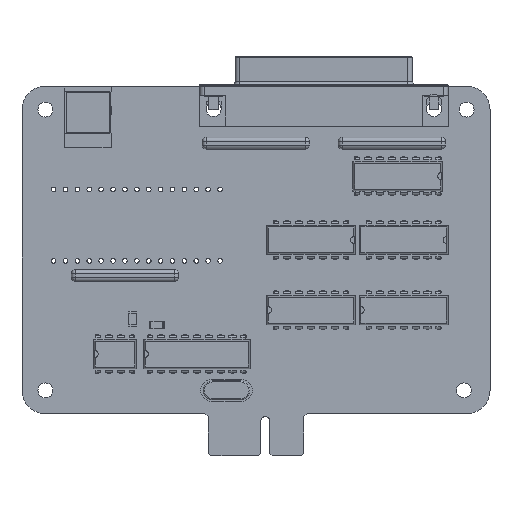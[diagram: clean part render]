
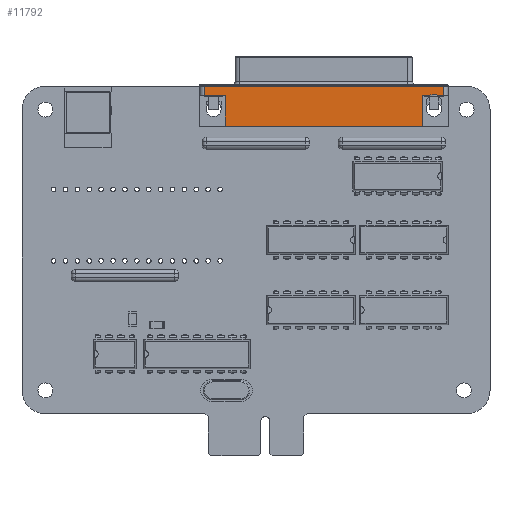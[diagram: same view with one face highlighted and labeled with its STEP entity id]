
A CAD part, top view. The second image highlights one B-rep face of the part: STEP entity #11792.
In plain terms, the highlighted planar face has unit normal (0, 0, 1).
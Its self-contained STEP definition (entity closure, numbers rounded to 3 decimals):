
#11551 = VERTEX_POINT('',#11552);
#11552 = CARTESIAN_POINT('',(-42.17,-7.78,12.5));
#11558 = EDGE_CURVE('',#11559,#11551,#11561,.T.);
#11559 = VERTEX_POINT('',#11560);
#11560 = CARTESIAN_POINT('',(8.93,-7.78,12.5));
#11561 = LINE('',#11562,#11563);
#11562 = CARTESIAN_POINT('',(8.93,-7.78,12.5));
#11563 = VECTOR('',#11564,1.);
#11564 = DIRECTION('',(-1.,0.,0.));
#11792 = ADVANCED_FACE('',(#11793),#11867,.T.);
#11793 = FACE_BOUND('',#11794,.T.);
#11794 = EDGE_LOOP('',(#11795,#11796,#11804,#11812,#11820,#11828,#11836,
    #11844,#11853,#11861));
#11795 = ORIENTED_EDGE('',*,*,#11558,.F.);
#11796 = ORIENTED_EDGE('',*,*,#11797,.T.);
#11797 = EDGE_CURVE('',#11559,#11798,#11800,.T.);
#11798 = VERTEX_POINT('',#11799);
#11799 = CARTESIAN_POINT('',(8.93,-5.78,12.5));
#11800 = LINE('',#11801,#11802);
#11801 = CARTESIAN_POINT('',(8.93,-7.78,12.5));
#11802 = VECTOR('',#11803,1.);
#11803 = DIRECTION('',(0.,1.,0.));
#11804 = ORIENTED_EDGE('',*,*,#11805,.F.);
#11805 = EDGE_CURVE('',#11806,#11798,#11808,.T.);
#11806 = VERTEX_POINT('',#11807);
#11807 = CARTESIAN_POINT('',(4.43,-5.78,12.5));
#11808 = LINE('',#11809,#11810);
#11809 = CARTESIAN_POINT('',(8.93,-5.78,12.5));
#11810 = VECTOR('',#11811,1.);
#11811 = DIRECTION('',(1.,0.,0.));
#11812 = ORIENTED_EDGE('',*,*,#11813,.F.);
#11813 = EDGE_CURVE('',#11814,#11806,#11816,.T.);
#11814 = VERTEX_POINT('',#11815);
#11815 = CARTESIAN_POINT('',(4.43,0.82,12.5));
#11816 = LINE('',#11817,#11818);
#11817 = CARTESIAN_POINT('',(4.43,-6.78,12.5));
#11818 = VECTOR('',#11819,1.);
#11819 = DIRECTION('',(0.,-1.,0.));
#11820 = ORIENTED_EDGE('',*,*,#11821,.T.);
#11821 = EDGE_CURVE('',#11814,#11822,#11824,.T.);
#11822 = VERTEX_POINT('',#11823);
#11823 = CARTESIAN_POINT('',(-37.67,0.82,12.5));
#11824 = LINE('',#11825,#11826);
#11825 = CARTESIAN_POINT('',(9.93,0.82,12.5));
#11826 = VECTOR('',#11827,1.);
#11827 = DIRECTION('',(-1.,0.,0.));
#11828 = ORIENTED_EDGE('',*,*,#11829,.F.);
#11829 = EDGE_CURVE('',#11830,#11822,#11832,.T.);
#11830 = VERTEX_POINT('',#11831);
#11831 = CARTESIAN_POINT('',(-37.67,-5.78,12.5));
#11832 = LINE('',#11833,#11834);
#11833 = CARTESIAN_POINT('',(-37.67,-6.78,12.5));
#11834 = VECTOR('',#11835,1.);
#11835 = DIRECTION('',(0.,1.,0.));
#11836 = ORIENTED_EDGE('',*,*,#11837,.F.);
#11837 = EDGE_CURVE('',#11838,#11830,#11840,.T.);
#11838 = VERTEX_POINT('',#11839);
#11839 = CARTESIAN_POINT('',(-39.296,-5.78,12.5));
#11840 = LINE('',#11841,#11842);
#11841 = CARTESIAN_POINT('',(-15.62,-5.78,12.5));
#11842 = VECTOR('',#11843,1.);
#11843 = DIRECTION('',(1.,0.,0.));
#11844 = ORIENTED_EDGE('',*,*,#11845,.T.);
#11845 = EDGE_CURVE('',#11838,#11846,#11848,.T.);
#11846 = VERTEX_POINT('',#11847);
#11847 = CARTESIAN_POINT('',(-41.044,-5.78,12.5));
#11848 = CIRCLE('',#11849,1.6);
#11849 = AXIS2_PLACEMENT_3D('',#11850,#11851,#11852);
#11850 = CARTESIAN_POINT('',(-40.17,-4.44,12.5));
#11851 = DIRECTION('',(0.,0.,-1.));
#11852 = DIRECTION('',(1.,0.,0.));
#11853 = ORIENTED_EDGE('',*,*,#11854,.F.);
#11854 = EDGE_CURVE('',#11855,#11846,#11857,.T.);
#11855 = VERTEX_POINT('',#11856);
#11856 = CARTESIAN_POINT('',(-42.17,-5.78,12.5));
#11857 = LINE('',#11858,#11859);
#11858 = CARTESIAN_POINT('',(-15.62,-5.78,12.5));
#11859 = VECTOR('',#11860,1.);
#11860 = DIRECTION('',(1.,0.,0.));
#11861 = ORIENTED_EDGE('',*,*,#11862,.F.);
#11862 = EDGE_CURVE('',#11551,#11855,#11863,.T.);
#11863 = LINE('',#11864,#11865);
#11864 = CARTESIAN_POINT('',(-42.17,-7.78,12.5));
#11865 = VECTOR('',#11866,1.);
#11866 = DIRECTION('',(0.,1.,0.));
#11867 = PLANE('',#11868);
#11868 = AXIS2_PLACEMENT_3D('',#11869,#11870,#11871);
#11869 = CARTESIAN_POINT('',(9.93,-7.78,12.5));
#11870 = DIRECTION('',(0.,0.,1.));
#11871 = DIRECTION('',(-1.,0.,0.));
